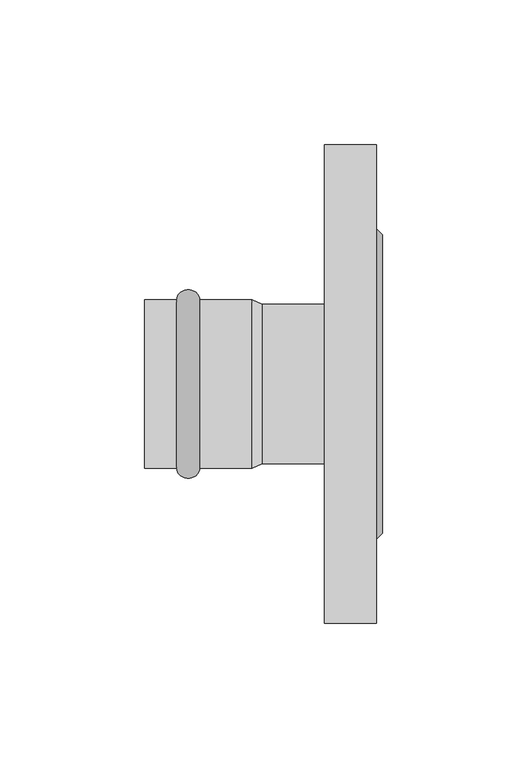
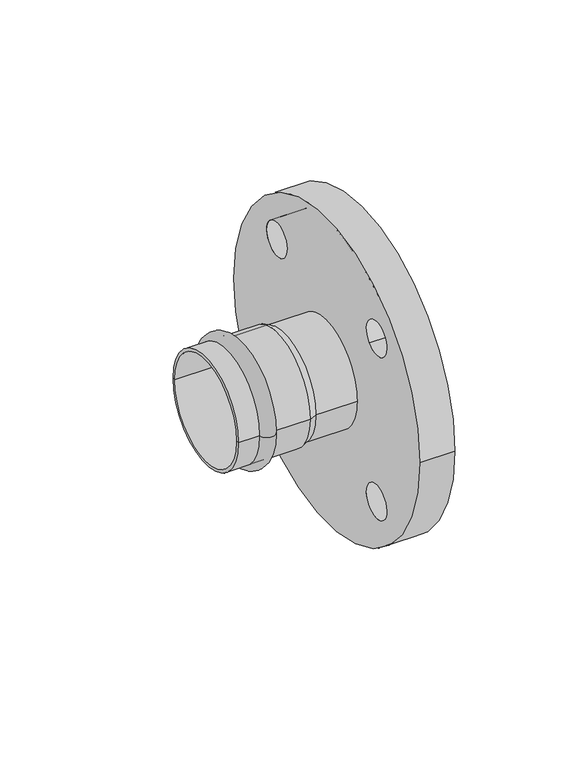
"""IFC4 building model written with IfcOpenShell, lengths in millimetres: pipe fitting geometry, РЕХАУ_Пресс Фланец : 54 x DN50."""

from ifc_helpers import new_model, si_unit, point, frame, frame_2d, origin, origin_2d, place, context, project, spatial, polyline, circle_curve, ellipse_curve, trimmed, segment, composite_curve, outline, extrude, source, transform, mapped, element, save
from ifc_brep_helpers import plane_surface, cylinder_surface, revolved_surface, advanced_brep


def pipe_fitting_7de03283(model_context):
    return source(origin(), model_context, "Body", "SolidModel", [
        advanced_brep(
        [(-26.0, 29.0, 0.0), (-26.0, -29.0, 0.0), (-18.0, -29.0, 0.0), (-18.0, 29.0, 0.0)],
        [
            (0, 1, circle_curve(frame((-26.0, 0.0, 0.0), z_axis=(-1.0, 0.0, 0.0), x_axis=(0.0, -1.0, 0.0)), 29.0)),
            (1, 2),
            (2, 3, circle_curve(frame((-18.0, 0.0, 0.0), z_axis=(1.0, 0.0, 0.0), x_axis=(0.0, -1.0, 0.0)), 29.0)),
            (3, 0),
            (1, 0, circle_curve(frame((-26.0, 0.0, 0.0), z_axis=(-1.0, 0.0, 0.0), x_axis=(0.0, -1.0, 0.0)), 29.0)),
            (3, 2, circle_curve(frame((-18.0, 0.0, 0.0), z_axis=(1.0, 0.0, 0.0), x_axis=(0.0, -1.0, 0.0)), 29.0)),
            (2, 1, ellipse_curve(frame((-22.0, -29.0, 0.0), z_axis=(0.0, 0.0, -1.0), x_axis=(-1.0, 0.0, 0.0)), 4.0, 3.5)),
            (0, 3, ellipse_curve(frame((-22.0, 29.0, 0.0), z_axis=(0.0, 0.0, -1.0), x_axis=(-1.0, 0.0, 0.0)), 4.0, 3.5)),
        ],
        [
            revolved_surface(polyline([(-18.0, -29.0, 0.0), (-26.0, -29.0, 0.0)]), (4.0, 0.0, 0.0), (1.0, 0.0, 0.0)),
            revolved_surface(trimmed(ellipse_curve(frame((-22.0, -29.0, 0.0), z_axis=(0.0, 0.0, 1.0), x_axis=(-1.0, 0.0, 0.0)), 4.0, 3.5), [point((-26.0, -29.0, 0.0))], [point((-18.0, -29.0, 0.0))], True, "CARTESIAN"), (4.0, 0.0, 0.0), (1.0, 0.0, 0.0)),
        ],
        [
            (0, [[1, 2, 3, 4]]),
            (0, [[5, -4, 6, -2]]),
            (1, [[-3, 7, -1, 8]]),
            (1, [[-6, -8, -5, -7]]),
        ],
    ),
        advanced_brep(
        [(3.5337785, 27.5, 0.0), (3.5337785, -27.5, 0.0), (0.0, -29.0, 0.0), (0.0, 29.0, 0.0), (-37.0, 27.5, 0.0), (-37.0, -27.5, 0.0), (-37.0, 29.0, 0.0), (-37.0, -29.0, 0.0)],
        [
            (0, 1, circle_curve(frame((3.5337785, 0.0, 0.0), z_axis=(-1.0, 0.0, 0.0), x_axis=(0.0, -1.0, 0.0)), 27.5)),
            (1, 2),
            (2, 3, circle_curve(frame((0.0, 0.0, 0.0), z_axis=(1.0, 0.0, 0.0), x_axis=(0.0, -1.0, 0.0)), 29.0)),
            (3, 0),
            (1, 0, circle_curve(frame((3.5337785, 0.0, 0.0), z_axis=(-1.0, 0.0, 0.0), x_axis=(0.0, -1.0, 0.0)), 27.5)),
            (3, 2, circle_curve(frame((0.0, 0.0, 0.0), z_axis=(1.0, 0.0, 0.0), x_axis=(0.0, -1.0, 0.0)), 29.0)),
            (4, 5, circle_curve(frame((-37.0, 0.0, 0.0), z_axis=(-1.0, 0.0, 0.0), x_axis=(0.0, -1.0, 0.0)), 27.5)),
            (5, 1),
            (0, 4),
            (5, 4, circle_curve(frame((-37.0, 0.0, 0.0), z_axis=(-1.0, 0.0, 0.0), x_axis=(0.0, -1.0, 0.0)), 27.5)),
            (6, 7, circle_curve(frame((-37.0, 0.0, 0.0), z_axis=(-1.0, 0.0, 0.0), x_axis=(0.0, -1.0, 0.0)), 29.0)),
            (7, 5),
            (4, 6),
            (7, 6, circle_curve(frame((-37.0, 0.0, 0.0), z_axis=(-1.0, 0.0, 0.0), x_axis=(0.0, -1.0, 0.0)), 29.0)),
            (2, 7),
            (6, 3),
        ],
        [
            revolved_surface(polyline([(0.0, -29.0, 0.0), (3.5337785, -27.5, 0.0)]), (4.0, 0.0, 0.0), (1.0, 0.0, 0.0)),
            revolved_surface(polyline([(3.5337785, -27.5, 0.0), (-37.0, -27.5, 0.0)]), (4.0, 0.0, 0.0), (1.0, 0.0, 0.0)),
            plane_surface(frame((-37.0, 0.0, 0.0), z_axis=(-1.0, 0.0, 0.0), x_axis=(0.0, -1.0, 0.0))),
            cylinder_surface(frame((4.0, 0.0, 0.0), z_axis=(1.0, 0.0, 0.0), x_axis=(0.0, -1.0, 0.0)), 29.0),
        ],
        [
            (0, [[1, 2, 3, 4]]),
            (0, [[5, -4, 6, -2]]),
            (1, [[7, 8, -1, 9]]),
            (1, [[10, -9, -5, -8]]),
            (2, [[11, 12, -7, 13]]),
            (2, [[14, -13, -10, -12]]),
            (3, [[-3, 15, -11, 16]]),
            (3, [[-6, -16, -14, -15]]),
        ],
    ),
        advanced_brep(
        [(45.0, -51.5, 0.0), (45.0, 51.5, 0.0), (43.0, -53.5, 0.0), (43.0, 53.5, 0.0)],
        [
            (0, 1, circle_curve(frame((45.0, 0.0, 0.0), z_axis=(1.0, 0.0, 0.0), x_axis=(0.0, -1.0, 0.0)), 51.5)),
            (1, 0, circle_curve(frame((45.0, 0.0, 0.0), z_axis=(1.0, 0.0, 0.0), x_axis=(0.0, 1.0, 0.0)), 51.5)),
            (2, 3, circle_curve(frame((43.0, 0.0, 0.0), z_axis=(-1.0, 0.0, 0.0), x_axis=(0.0, 1.0, 0.0)), 53.5)),
            (3, 2, circle_curve(frame((43.0, 0.0, 0.0), z_axis=(-1.0, 0.0, 0.0), x_axis=(0.0, -1.0, 0.0)), 53.5)),
            (3, 1),
            (0, 2),
        ],
        [
            plane_surface(frame((45.0, 0.0, 0.0), z_axis=(1.0, 0.0, 0.0), x_axis=(0.0, 0.0, -1.0))),
            plane_surface(frame((43.0, 0.0, 0.0), z_axis=(-1.0, 0.0, 0.0), x_axis=(0.0, 0.0, -1.0))),
            revolved_surface(polyline([(45.0, -51.5, 0.0), (43.0, -53.5, 0.0)]), (96.5, 0.0, 0.0), (-1.0, 0.0, 0.0)),
            revolved_surface(polyline([(45.0, 51.5, 0.0), (43.0, 53.5, 0.0)]), (96.5, 0.0, 0.0), (-1.0, 0.0, 0.0)),
        ],
        [
            (0, [[1, 2]]),
            (1, [[3, 4]]),
            (2, [[-4, 5, -1, 6]]),
            (3, [[-3, -6, -2, -5]]),
        ],
    ),
        extrude(outline(composite_curve([segment(trimmed(circle_curve(origin_2d(), 82.5), [point((82.5, 0.0))], [point((-82.5, 0.0))], False, "CARTESIAN"), True, "CONTINUOUS"), segment(trimmed(circle_curve(origin_2d(), 82.5), [point((-82.5, 0.0))], [point((82.5, 0.0))], False, "CARTESIAN"), True, "CONTINUOUS")], self_intersect=False), holes=[composite_curve([segment(trimmed(circle_curve(frame_2d((44.1941738, 44.1941738)), 9.0), [point((37.8302128, 37.8302128))], [point((50.5581349, 50.5581349))], True, "CARTESIAN"), True, "CONTINUOUS"), segment(trimmed(circle_curve(frame_2d((44.1941738, 44.1941738)), 9.0), [point((50.5581349, 50.5581349))], [point((37.8302128, 37.8302128))], True, "CARTESIAN"), True, "CONTINUOUS")], self_intersect=False), composite_curve([segment(trimmed(circle_curve(frame_2d((44.1941738, -44.1941738)), 9.0), [point((37.8302128, -37.8302128))], [point((50.5581349, -50.5581349))], True, "CARTESIAN"), True, "CONTINUOUS"), segment(trimmed(circle_curve(frame_2d((44.1941738, -44.1941738)), 9.0), [point((50.5581349, -50.5581349))], [point((37.8302128, -37.8302128))], True, "CARTESIAN"), True, "CONTINUOUS")], self_intersect=False), composite_curve([segment(trimmed(circle_curve(frame_2d((-44.1941738, -44.1941738)), 9.0), [point((-37.8302128, -37.8302128))], [point((-50.5581349, -50.5581349))], True, "CARTESIAN"), True, "CONTINUOUS"), segment(trimmed(circle_curve(frame_2d((-44.1941738, -44.1941738)), 9.0), [point((-50.5581349, -50.5581349))], [point((-37.8302128, -37.8302128))], True, "CARTESIAN"), True, "CONTINUOUS")], self_intersect=False), composite_curve([segment(trimmed(circle_curve(frame_2d((-44.1941738, 44.1941738)), 9.0), [point((-37.8302128, 37.8302128))], [point((-50.5581349, 50.5581349))], True, "CARTESIAN"), True, "CONTINUOUS"), segment(trimmed(circle_curve(frame_2d((-44.1941738, 44.1941738)), 9.0), [point((-50.5581349, 50.5581349))], [point((-37.8302128, 37.8302128))], True, "CARTESIAN"), True, "CONTINUOUS")], self_intersect=False)]), frame((25.0, 0.0, 0.0), z_axis=(1.0, 0.0, 0.0), x_axis=(0.0, 1.0, 0.0)), (0.0, 0.0, 1.0), 18.0),
        extrude(outline(composite_curve([segment(trimmed(circle_curve(origin_2d(), 27.5), [point((-27.5, 0.0))], [point((27.5, 0.0))], False, "CARTESIAN"), True, "CONTINUOUS"), segment(trimmed(circle_curve(origin_2d(), 27.5), [point((27.5, 0.0))], [point((-27.5, 0.0))], False, "CARTESIAN"), True, "CONTINUOUS")], self_intersect=False)), frame((0.0, 0.0, 0.0), z_axis=(1.0, 0.0, 0.0), x_axis=(0.0, 1.0, 0.0)), (0.0, 0.0, 1.0), 25.0),
    ])


if __name__ == "__main__":
    model = new_model("IFC4")
    model_context = context("Model", 3, world=origin())
    ifc_project = project(units=[si_unit("LENGTHUNIT", "METRE", prefix="MILLI")], contexts=[model_context])
    site = spatial("IfcSite", under=ifc_project)
    building = spatial("IfcBuilding", under=site)
    placement = place(None, origin())
    pipe_fitting_shape = pipe_fitting_7de03283(model_context)
    element("IfcPipeFitting", 1, ObjectType="РЕХАУ_Пресс Фланец : 54 x DN50", at=placement, inside=building, context=model_context, shape_type="MappedRepresentation", body=[
        mapped(pipe_fitting_shape, transform((0.0, 0.0, 0.0), x_axis=(1.0, 0.0, 0.0), y_axis=(0.0, 1.0, 0.0), z_axis=(0.0, 0.0, 1.0))),
    ])
    save(model, "model.ifc")
